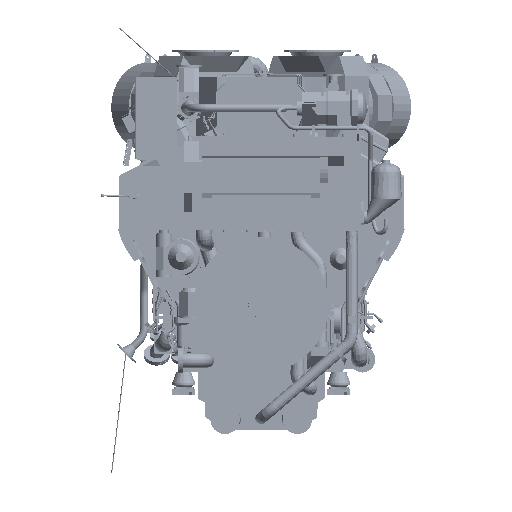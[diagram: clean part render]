
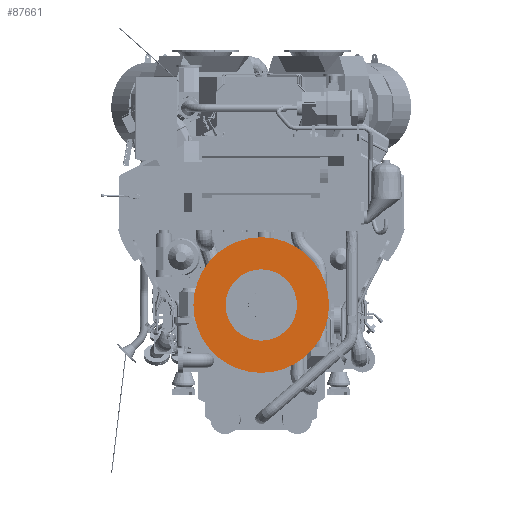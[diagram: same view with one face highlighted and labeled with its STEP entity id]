
A CAD part, left-side view. The second image highlights one B-rep face of the part: STEP entity #87661.
In plain terms, the highlighted planar face has unit normal (-1, 0, 0).
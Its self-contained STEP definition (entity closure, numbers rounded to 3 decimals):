
#78066=PLANE('',#295304);
#87661=ADVANCED_FACE('',(#109890,#109891),#78066,.F.);
#109890=FACE_BOUND('',#119207,.T.);
#109891=FACE_BOUND('',#119208,.T.);
#119207=EDGE_LOOP('',(#142098));
#119208=EDGE_LOOP('',(#142099));
#142098=ORIENTED_EDGE('',*,*,#246360,.T.);
#142099=ORIENTED_EDGE('',*,*,#246358,.F.);
#220036=VERTEX_POINT('',#401368);
#220038=VERTEX_POINT('',#401373);
#246358=EDGE_CURVE('',#220036,#220036,#285328,.T.);
#246360=EDGE_CURVE('',#220038,#220038,#285330,.T.);
#285328=CIRCLE('',#295300,656.);
#285330=CIRCLE('',#295303,345.);
#295300=AXIS2_PLACEMENT_3D('',#401367,#323132,#323133);
#295303=AXIS2_PLACEMENT_3D('',#401372,#323138,#323139);
#295304=AXIS2_PLACEMENT_3D('',#401374,#323140,#323141);
#323132=DIRECTION('',(1.,0.,0.));
#323133=DIRECTION('',(0.,1.,0.));
#323138=DIRECTION('',(1.,0.,0.));
#323139=DIRECTION('',(0.,1.,0.));
#323140=DIRECTION('',(1.,0.,0.));
#323141=DIRECTION('',(0.,0.,-1.));
#401367=CARTESIAN_POINT('',(0.,0.,0.));
#401368=CARTESIAN_POINT('',(0.,656.,0.));
#401372=CARTESIAN_POINT('',(0.,0.,0.));
#401373=CARTESIAN_POINT('',(0.,345.,0.));
#401374=CARTESIAN_POINT('',(0.,0.,0.));
